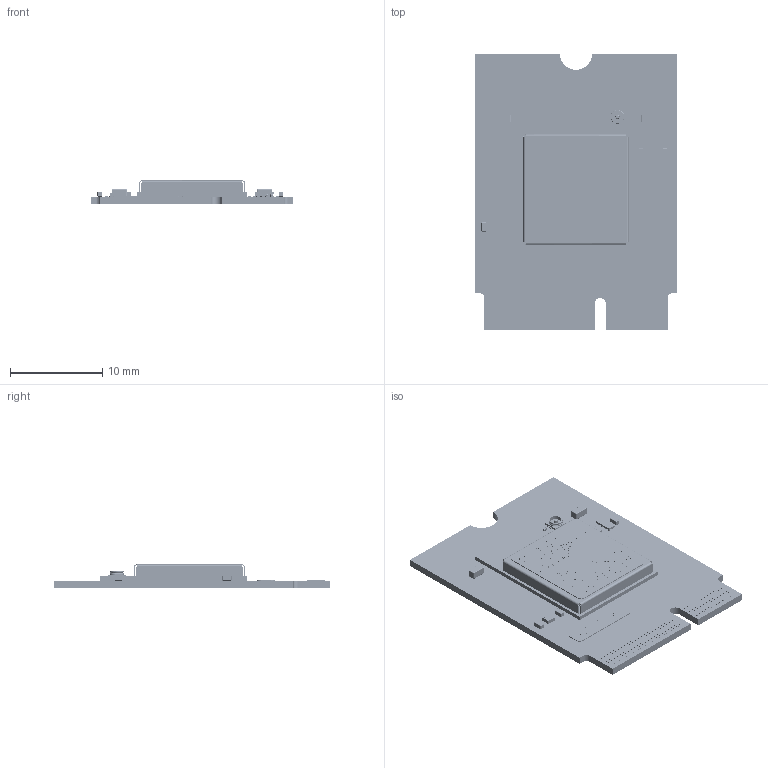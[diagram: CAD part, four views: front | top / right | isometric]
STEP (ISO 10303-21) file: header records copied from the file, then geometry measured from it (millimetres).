
FILE_DESCRIPTION (( 'STEP AP214' ), '1' );
FILE_NAME ('453-00166.STEP', '2026-05-28T01:22:24', ( '' ), ( '' ), 'SwSTEP 2.0', 'SolidWorks 2025', '' );
FILE_SCHEMA (( 'AUTOMOTIVE_DESIGN' ));
Length unit declared in the file: millimetre
Products named in the file (10): 940-00284; 110-00821; 940-00275; 160-02404_453-00158; 160-02407_453-00166; 453-00158; 453-00166; 160-02406_453-00166
Assembly tree (9 placements, depth 5):
  453-00166
    940-00284
      940-00284
      453-00158
        940-00275
          940-00275
          110-00821
        160-02404_453-00158
    160-02406_453-00166
    160-02407_453-00166
Bounding box: 22 x 30 x 2.7 mm (x, y, z)
Volume: 566.5 mm3; surface area: 3958.6 mm2
Topology: 218 solids, 573 shells, 15458 faces, 39251 edges, 25040 vertices
Faces by surface type: plane 7526, cylinder 5571, bspline 1369, sphere 960, torus 26, cone 6
Entity records: 632428 total; most frequent: CARTESIAN_POINT 139727, ORIENTED_EDGE 77768, DIRECTION 76818, EDGE_CURVE 38975, AXIS2_PLACEMENT_3D 26037, VERTEX_POINT 24956, VECTOR 24744, LINE 24744
